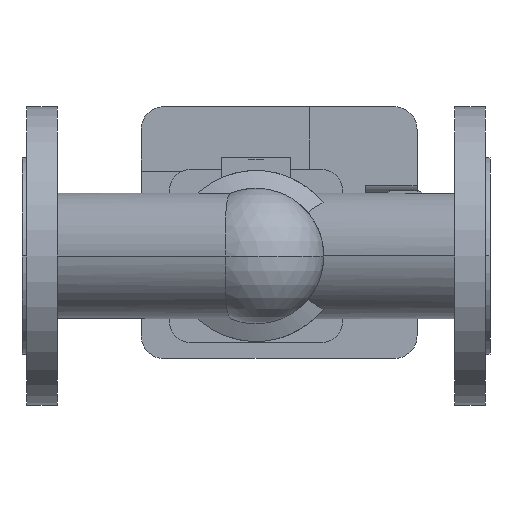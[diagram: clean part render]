
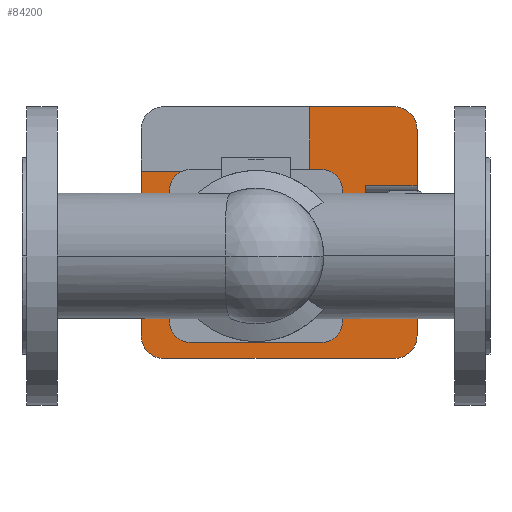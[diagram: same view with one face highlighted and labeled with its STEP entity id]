
A CAD part, front view. The second image highlights one B-rep face of the part: STEP entity #84200.
In plain terms, the highlighted planar face has unit normal (0, -1, 0).
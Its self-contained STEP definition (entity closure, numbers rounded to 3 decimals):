
#66110=CARTESIAN_POINT('',(230.8,574.5,92.5));
#66120=VERTEX_POINT('',#66110);
#66150=CARTESIAN_POINT('',(87.8,574.5,92.5));
#66160=DIRECTION('',(1.,0.,0.));
#66170=VECTOR('',#66160,1.);
#66180=LINE('',#66150,#66170);
#66190=CARTESIAN_POINT('',(178.3,574.5,92.5));
#66200=VERTEX_POINT('',#66190);
#66210=EDGE_CURVE('',#66200,#66120,#66180,.T.);
#66560=CARTESIAN_POINT('',(244.8,574.5,78.5));
#66570=VERTEX_POINT('',#66560);
#66620=CARTESIAN_POINT('',(230.8,574.5,78.5));
#66630=DIRECTION('',(0.,1.,0.));
#66640=DIRECTION('',(0.,0.,1.));
#66650=AXIS2_PLACEMENT_3D('',#66620,#66630,#66640);
#66660=CIRCLE('',#66650,14.);
#66670=EDGE_CURVE('',#66120,#66570,#66660,.T.);
#66920=CARTESIAN_POINT('',(73.8,574.5,-49.5));
#66930=DIRECTION('',(0.,0.,1.));
#66940=VECTOR('',#66930,1.);
#66950=LINE('',#66920,#66940);
#66960=CARTESIAN_POINT('',(73.8,574.5,-49.5));
#66970=VERTEX_POINT('',#66960);
#66980=CARTESIAN_POINT('',(73.8,574.5,52.5));
#66990=VERTEX_POINT('',#66980);
#67000=EDGE_CURVE('',#66970,#66990,#66950,.T.);
#67560=CARTESIAN_POINT('',(87.8,574.5,-49.5));
#67570=DIRECTION('',(0.,1.,0.));
#67580=DIRECTION('',(0.,0.,-1.));
#67590=AXIS2_PLACEMENT_3D('',#67560,#67570,#67580);
#67600=CIRCLE('',#67590,14.);
#67610=CARTESIAN_POINT('',(87.8,574.5,-63.5));
#67620=VERTEX_POINT('',#67610);
#67630=EDGE_CURVE('',#67620,#66970,#67600,.T.);
#68810=CARTESIAN_POINT('',(244.8,574.5,-16.5));
#68820=VERTEX_POINT('',#68810);
#68850=CARTESIAN_POINT('',(194.9,574.5,-16.5));
#68860=DIRECTION('',(-1.,0.,0.));
#68870=VECTOR('',#68860,1.);
#68880=LINE('',#68850,#68870);
#68890=CARTESIAN_POINT('',(212.8,574.5,-16.5));
#68900=VERTEX_POINT('',#68890);
#68910=EDGE_CURVE('',#68820,#68900,#68880,.T.);
#69540=CARTESIAN_POINT('',(194.9,574.5,43.5));
#69550=DIRECTION('',(1.,0.,0.));
#69560=VECTOR('',#69550,1.);
#69570=LINE('',#69540,#69560);
#69580=CARTESIAN_POINT('',(212.8,574.5,43.5));
#69590=VERTEX_POINT('',#69580);
#69600=CARTESIAN_POINT('',(244.8,574.5,43.5));
#69610=VERTEX_POINT('',#69600);
#69620=EDGE_CURVE('',#69590,#69610,#69570,.T.);
#69970=CARTESIAN_POINT('',(212.8,574.5,0.));
#69980=DIRECTION('',(0.,0.,1.));
#69990=VECTOR('',#69980,1.);
#70000=LINE('',#69970,#69990);
#70010=EDGE_CURVE('',#68900,#69590,#70000,.T.);
#70210=CARTESIAN_POINT('',(244.8,574.5,78.5));
#70220=DIRECTION('',(0.,0.,-1.));
#70230=VECTOR('',#70220,1.);
#70240=LINE('',#70210,#70230);
#70250=EDGE_CURVE('',#66570,#69610,#70240,.T.);
#70330=CARTESIAN_POINT('',(244.8,574.5,-49.5));
#70340=VERTEX_POINT('',#70330);
#70370=CARTESIAN_POINT('',(244.8,574.5,78.5));
#70380=DIRECTION('',(0.,0.,-1.));
#70390=VECTOR('',#70380,1.);
#70400=LINE('',#70370,#70390);
#70410=EDGE_CURVE('',#68820,#70340,#70400,.T.);
#71010=CARTESIAN_POINT('',(204.96,574.5,11.216));
#71020=VERTEX_POINT('',#71010);
#71050=CARTESIAN_POINT('',(195.,574.5,0.));
#71060=DIRECTION('',(0.,1.,0.));
#71070=DIRECTION('',(0.,0.,1.));
#71080=AXIS2_PLACEMENT_3D('',#71050,#71060,#71070);
#71090=CIRCLE('',#71080,15.);
#71100=CARTESIAN_POINT('',(204.96,574.5,-11.216));
#71110=VERTEX_POINT('',#71100);
#71120=EDGE_CURVE('',#71020,#71110,#71090,.T.);
#74260=CARTESIAN_POINT('',(187.116,574.5,44.128));
#74270=VERTEX_POINT('',#74260);
#74300=CARTESIAN_POINT('',(145.,574.5,0.));
#74310=DIRECTION('',(0.,1.,0.));
#74320=DIRECTION('',(0.69,0.,0.723));
#74330=AXIS2_PLACEMENT_3D('',#74300,#74310,#74320);
#74340=CIRCLE('',#74330,61.);
#74350=EDGE_CURVE('',#74270,#71020,#74340,.T.);
#74810=CARTESIAN_POINT('',(85.04,574.5,-11.216));
#74820=VERTEX_POINT('',#74810);
#74850=CARTESIAN_POINT('',(95.,574.5,0.));
#74860=DIRECTION('',(0.,1.,0.));
#74870=DIRECTION('',(0.,0.,-1.));
#74880=AXIS2_PLACEMENT_3D('',#74850,#74860,#74870);
#74890=CIRCLE('',#74880,15.);
#74900=CARTESIAN_POINT('',(85.04,574.5,11.216));
#74910=VERTEX_POINT('',#74900);
#74920=EDGE_CURVE('',#74820,#74910,#74890,.T.);
#76260=CARTESIAN_POINT('',(102.884,574.5,-44.128));
#76270=VERTEX_POINT('',#76260);
#76300=CARTESIAN_POINT('',(145.,574.5,0.));
#76310=DIRECTION('',(0.,1.,0.));
#76320=DIRECTION('',(-0.69,0.,-0.723));
#76330=AXIS2_PLACEMENT_3D('',#76300,#76310,#76320);
#76340=CIRCLE('',#76330,61.);
#76350=EDGE_CURVE('',#76270,#74820,#76340,.T.);
#79290=CARTESIAN_POINT('',(230.8,574.5,-63.5));
#79300=VERTEX_POINT('',#79290);
#79330=CARTESIAN_POINT('',(230.8,574.5,-49.5));
#79340=DIRECTION('',(0.,1.,0.));
#79350=DIRECTION('',(1.,0.,0.));
#79360=AXIS2_PLACEMENT_3D('',#79330,#79340,#79350);
#79370=CIRCLE('',#79360,14.);
#79380=EDGE_CURVE('',#70340,#79300,#79370,.T.);
#83110=CARTESIAN_POINT('',(145.,574.5,0.));
#83120=DIRECTION('',(0.,1.,0.));
#83130=DIRECTION('',(0.,0.,1.));
#83140=AXIS2_PLACEMENT_3D('',#83110,#83120,#83130);
#83150=PLANE('',#83140);
#83160=ORIENTED_EDGE('',*,*,#70010,.T.);
#83170=ORIENTED_EDGE('',*,*,#68910,.T.);
#83180=ORIENTED_EDGE('',*,*,#70410,.F.);
#83190=ORIENTED_EDGE('',*,*,#79380,.F.);
#83200=CARTESIAN_POINT('',(230.8,574.5,-63.5));
#83210=DIRECTION('',(-1.,0.,0.));
#83220=VECTOR('',#83210,1.);
#83230=LINE('',#83200,#83220);
#83240=EDGE_CURVE('',#79300,#67620,#83230,.T.);
#83250=ORIENTED_EDGE('',*,*,#83240,.F.);
#83260=ORIENTED_EDGE('',*,*,#67630,.F.);
#83270=ORIENTED_EDGE('',*,*,#67000,.F.);
#83280=CARTESIAN_POINT('',(108.9,574.5,52.5));
#83290=DIRECTION('',(-1.,0.,0.));
#83300=VECTOR('',#83290,1.);
#83310=LINE('',#83280,#83300);
#83320=CARTESIAN_POINT('',(178.3,574.5,52.5));
#83330=VERTEX_POINT('',#83320);
#83340=EDGE_CURVE('',#83330,#66990,#83310,.T.);
#83350=ORIENTED_EDGE('',*,*,#83340,.T.);
#83360=CARTESIAN_POINT('',(178.3,574.5,26.25));
#83370=DIRECTION('',(0.,0.,-1.));
#83380=VECTOR('',#83370,1.);
#83390=LINE('',#83360,#83380);
#83400=EDGE_CURVE('',#66200,#83330,#83390,.T.);
#83410=ORIENTED_EDGE('',*,*,#83400,.T.);
#83420=ORIENTED_EDGE('',*,*,#66210,.F.);
#83430=ORIENTED_EDGE('',*,*,#66670,.F.);
#83440=ORIENTED_EDGE('',*,*,#70250,.F.);
#83450=ORIENTED_EDGE('',*,*,#69620,.T.);
#83460=EDGE_LOOP('',(#83450,#83440,#83430,#83420,#83410,#83350,#83270,
#83260,#83250,#83190,#83180,#83170,#83160));
#83470=FACE_OUTER_BOUND('',#83460,.T.);
#83480=ORIENTED_EDGE('',*,*,#74350,.T.);
#83490=CARTESIAN_POINT('',(177.45,574.5,34.));
#83500=DIRECTION('',(0.,1.,0.));
#83510=DIRECTION('',(0.,0.,1.));
#83520=AXIS2_PLACEMENT_3D('',#83490,#83500,#83510);
#83530=CIRCLE('',#83520,14.);
#83540=CARTESIAN_POINT('',(177.45,574.5,48.));
#83550=VERTEX_POINT('',#83540);
#83560=EDGE_CURVE('',#83550,#74270,#83530,.T.);
#83570=ORIENTED_EDGE('',*,*,#83560,.T.);
#83580=CARTESIAN_POINT('',(128.775,574.5,48.));
#83590=DIRECTION('',(1.,0.,0.));
#83600=VECTOR('',#83590,1.);
#83610=LINE('',#83580,#83600);
#83620=CARTESIAN_POINT('',(112.55,574.5,48.));
#83630=VERTEX_POINT('',#83620);
#83640=EDGE_CURVE('',#83630,#83550,#83610,.T.);
#83650=ORIENTED_EDGE('',*,*,#83640,.T.);
#83660=CARTESIAN_POINT('',(112.55,574.5,34.));
#83670=DIRECTION('',(0.,1.,0.));
#83680=DIRECTION('',(-0.69,0.,0.723));
#83690=AXIS2_PLACEMENT_3D('',#83660,#83670,#83680);
#83700=CIRCLE('',#83690,14.);
#83710=CARTESIAN_POINT('',(102.884,574.5,44.128));
#83720=VERTEX_POINT('',#83710);
#83730=EDGE_CURVE('',#83720,#83630,#83700,.T.);
#83740=ORIENTED_EDGE('',*,*,#83730,.T.);
#83750=CARTESIAN_POINT('',(145.,574.5,0.));
#83760=DIRECTION('',(0.,1.,0.));
#83770=DIRECTION('',(-0.69,0.,-0.723));
#83780=AXIS2_PLACEMENT_3D('',#83750,#83760,#83770);
#83790=CIRCLE('',#83780,61.);
#83800=EDGE_CURVE('',#74910,#83720,#83790,.T.);
#83810=ORIENTED_EDGE('',*,*,#83800,.T.);
#83820=ORIENTED_EDGE('',*,*,#74920,.T.);
#83830=ORIENTED_EDGE('',*,*,#76350,.T.);
#83840=CARTESIAN_POINT('',(112.55,574.5,-34.));
#83850=DIRECTION('',(0.,1.,0.));
#83860=DIRECTION('',(0.,0.,-1.));
#83870=AXIS2_PLACEMENT_3D('',#83840,#83850,#83860);
#83880=CIRCLE('',#83870,14.);
#83890=CARTESIAN_POINT('',(112.55,574.5,-48.));
#83900=VERTEX_POINT('',#83890);
#83910=EDGE_CURVE('',#83900,#76270,#83880,.T.);
#83920=ORIENTED_EDGE('',*,*,#83910,.T.);
#83930=CARTESIAN_POINT('',(161.225,574.5,-48.));
#83940=DIRECTION('',(-1.,0.,0.));
#83950=VECTOR('',#83940,1.);
#83960=LINE('',#83930,#83950);
#83970=CARTESIAN_POINT('',(177.45,574.5,-48.));
#83980=VERTEX_POINT('',#83970);
#83990=EDGE_CURVE('',#83980,#83900,#83960,.T.);
#84000=ORIENTED_EDGE('',*,*,#83990,.T.);
#84010=CARTESIAN_POINT('',(177.45,574.5,-34.));
#84020=DIRECTION('',(0.,1.,0.));
#84030=DIRECTION('',(0.69,0.,-0.723));
#84040=AXIS2_PLACEMENT_3D('',#84010,#84020,#84030);
#84050=CIRCLE('',#84040,14.);
#84060=CARTESIAN_POINT('',(187.116,574.5,-44.128));
#84070=VERTEX_POINT('',#84060);
#84080=EDGE_CURVE('',#84070,#83980,#84050,.T.);
#84090=ORIENTED_EDGE('',*,*,#84080,.T.);
#84100=CARTESIAN_POINT('',(145.,574.5,0.));
#84110=DIRECTION('',(0.,1.,0.));
#84120=DIRECTION('',(0.69,0.,0.723));
#84130=AXIS2_PLACEMENT_3D('',#84100,#84110,#84120);
#84140=CIRCLE('',#84130,61.);
#84150=EDGE_CURVE('',#71110,#84070,#84140,.T.);
#84160=ORIENTED_EDGE('',*,*,#84150,.T.);
#84170=ORIENTED_EDGE('',*,*,#71120,.T.);
#84180=EDGE_LOOP('',(#84170,#84160,#84090,#84000,#83920,#83830,#83820,
#83810,#83740,#83650,#83570,#83480));
#84190=FACE_BOUND('',#84180,.T.);
#84200=ADVANCED_FACE('',(#83470,#84190),#83150,.F.);
